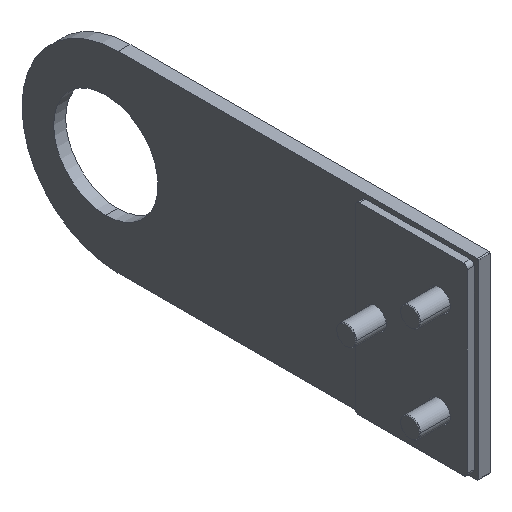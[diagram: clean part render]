
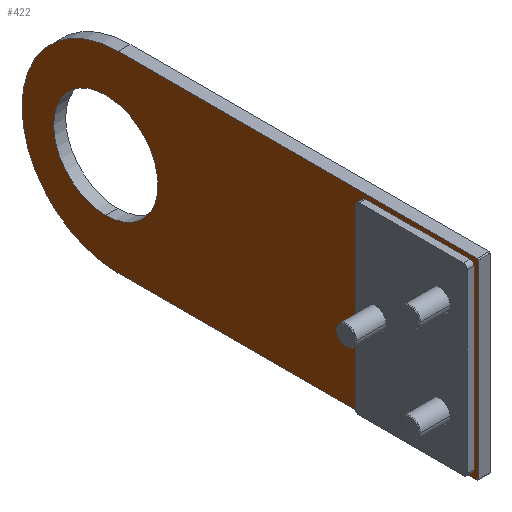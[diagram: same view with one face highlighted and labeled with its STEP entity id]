
A CAD part, isometric view. The second image highlights one B-rep face of the part: STEP entity #422.
In plain terms, the highlighted planar face has unit normal (-1, 0, 0).
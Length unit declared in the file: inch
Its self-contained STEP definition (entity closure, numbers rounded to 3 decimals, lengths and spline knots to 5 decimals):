
#100=CARTESIAN_POINT('',(-0.0005,2.2525,0.));
#101=DIRECTION('',(1.,0.,0.));
#102=DIRECTION('',(0.,0.,-1.));
#103=AXIS2_PLACEMENT_3D('',#100,#101,#102);
#105=CARTESIAN_POINT('',(-0.0005,2.2525,0.));
#106=DIRECTION('',(1.,0.,0.));
#107=DIRECTION('',(0.,0.,1.));
#108=AXIS2_PLACEMENT_3D('',#105,#106,#107);
#110=CARTESIAN_POINT('',(-0.0005,-3.0625,0.75));
#111=DIRECTION('',(1.,0.,0.));
#112=DIRECTION('',(0.,0.,1.));
#113=AXIS2_PLACEMENT_3D('',#110,#111,#112);
#115=CARTESIAN_POINT('',(-0.0005,-3.0625,0.75));
#116=DIRECTION('',(1.,0.,0.));
#117=DIRECTION('',(0.,0.,-1.));
#118=AXIS2_PLACEMENT_3D('',#115,#116,#117);
#120=CARTESIAN_POINT('',(-0.0005,-3.0625,-0.75));
#121=DIRECTION('',(1.,0.,0.));
#122=DIRECTION('',(0.,0.,1.));
#123=AXIS2_PLACEMENT_3D('',#120,#121,#122);
#125=CARTESIAN_POINT('',(-0.0005,-3.0625,-0.75));
#126=DIRECTION('',(1.,0.,0.));
#127=DIRECTION('',(0.,0.,-1.));
#128=AXIS2_PLACEMENT_3D('',#125,#126,#127);
#130=CARTESIAN_POINT('',(-0.0005,-2.0625,0.));
#131=DIRECTION('',(1.,0.,0.));
#132=DIRECTION('',(0.,0.,1.));
#133=AXIS2_PLACEMENT_3D('',#130,#131,#132);
#135=CARTESIAN_POINT('',(-0.0005,-2.0625,0.));
#136=DIRECTION('',(1.,0.,0.));
#137=DIRECTION('',(0.,0.,-1.));
#138=AXIS2_PLACEMENT_3D('',#135,#136,#137);
#140=CARTESIAN_POINT('',(-0.0005,-3.3125,0.));
#141=DIRECTION('',(1.,0.,0.));
#142=DIRECTION('',(0.,0.,1.));
#143=AXIS2_PLACEMENT_3D('',#140,#141,#142);
#145=CARTESIAN_POINT('',(-0.0005,-3.3125,0.));
#146=DIRECTION('',(1.,0.,0.));
#147=DIRECTION('',(0.,0.,-1.));
#148=AXIS2_PLACEMENT_3D('',#145,#146,#147);
#150=CARTESIAN_POINT('',(-0.0005,2.0625,0.));
#151=DIRECTION('',(1.,0.,0.));
#152=DIRECTION('',(0.,0.,-1.));
#153=AXIS2_PLACEMENT_3D('',#150,#151,#152);
#155=DIRECTION('',(0.,-1.,0.));
#156=VECTOR('',#155,5.61);
#157=CARTESIAN_POINT('',(-0.0005,2.0625,1.5));
#158=LINE('',#157,#156);
#159=CARTESIAN_POINT('',(-0.0005,-3.5475,1.485));
#160=DIRECTION('',(-1.,0.,0.));
#161=DIRECTION('',(0.,-1.,0.));
#162=AXIS2_PLACEMENT_3D('',#159,#160,#161);
#164=DIRECTION('',(0.,0.,-1.));
#165=VECTOR('',#164,2.97);
#166=CARTESIAN_POINT('',(-0.0005,-3.5625,1.485));
#167=LINE('',#166,#165);
#168=CARTESIAN_POINT('',(-0.0005,-3.5475,-1.485));
#169=DIRECTION('',(-1.,0.,0.));
#170=DIRECTION('',(0.,0.,-1.));
#171=AXIS2_PLACEMENT_3D('',#168,#169,#170);
#173=DIRECTION('',(0.,1.,0.));
#174=VECTOR('',#173,5.61);
#175=CARTESIAN_POINT('',(-0.0005,-3.5475,-1.5));
#176=LINE('',#175,#174);
#234=CARTESIAN_POINT('',(-0.0005,2.2525,-0.815));
#236=VERTEX_POINT('',#234);
#238=CARTESIAN_POINT('',(-0.0005,2.2525,0.815));
#240=VERTEX_POINT('',#238);
#257=CARTESIAN_POINT('',(-0.0005,-3.3125,0.094));
#258=CARTESIAN_POINT('',(-0.0005,-3.3125,-0.094));
#259=VERTEX_POINT('',#257);
#260=VERTEX_POINT('',#258);
#261=CARTESIAN_POINT('',(-0.0005,-2.0625,0.156));
#262=CARTESIAN_POINT('',(-0.0005,-2.0625,-0.156));
#263=VERTEX_POINT('',#261);
#264=VERTEX_POINT('',#262);
#265=CARTESIAN_POINT('',(-0.0005,-3.0625,-0.594));
#266=CARTESIAN_POINT('',(-0.0005,-3.0625,-0.906));
#267=VERTEX_POINT('',#265);
#268=VERTEX_POINT('',#266);
#269=CARTESIAN_POINT('',(-0.0005,-3.0625,0.906));
#270=CARTESIAN_POINT('',(-0.0005,-3.0625,0.594));
#271=VERTEX_POINT('',#269);
#272=VERTEX_POINT('',#270);
#277=CARTESIAN_POINT('',(-0.0005,-3.5475,-1.5));
#278=VERTEX_POINT('',#277);
#279=CARTESIAN_POINT('',(-0.0005,-3.5625,-1.485));
#280=VERTEX_POINT('',#279);
#285=CARTESIAN_POINT('',(-0.0005,-3.5625,1.485));
#286=VERTEX_POINT('',#285);
#287=CARTESIAN_POINT('',(-0.0005,-3.5475,1.5));
#288=VERTEX_POINT('',#287);
#289=CARTESIAN_POINT('',(-0.0005,2.0625,-1.5));
#290=CARTESIAN_POINT('',(-0.0005,2.0625,1.5));
#291=VERTEX_POINT('',#289);
#292=VERTEX_POINT('',#290);
#375=CARTESIAN_POINT('',(-0.0005,0.,0.));
#376=DIRECTION('',(1.,0.,0.));
#377=DIRECTION('',(0.,0.,-1.));
#378=AXIS2_PLACEMENT_3D('',#375,#376,#377);
#379=PLANE('',#378);
#381=ORIENTED_EDGE('',*,*,#380,.T.);
#383=ORIENTED_EDGE('',*,*,#382,.T.);
#385=ORIENTED_EDGE('',*,*,#384,.F.);
#387=ORIENTED_EDGE('',*,*,#386,.T.);
#389=ORIENTED_EDGE('',*,*,#388,.F.);
#391=ORIENTED_EDGE('',*,*,#390,.T.);
#392=EDGE_LOOP('',(#381,#383,#385,#387,#389,#391));
#393=FACE_OUTER_BOUND('',#392,.F.);
#395=ORIENTED_EDGE('',*,*,#394,.F.);
#397=ORIENTED_EDGE('',*,*,#396,.F.);
#398=EDGE_LOOP('',(#395,#397));
#399=FACE_BOUND('',#398,.F.);
#401=ORIENTED_EDGE('',*,*,#400,.F.);
#403=ORIENTED_EDGE('',*,*,#402,.F.);
#404=EDGE_LOOP('',(#401,#403));
#405=FACE_BOUND('',#404,.F.);
#407=ORIENTED_EDGE('',*,*,#406,.F.);
#409=ORIENTED_EDGE('',*,*,#408,.F.);
#410=EDGE_LOOP('',(#407,#409));
#411=FACE_BOUND('',#410,.F.);
#413=ORIENTED_EDGE('',*,*,#412,.F.);
#415=ORIENTED_EDGE('',*,*,#414,.F.);
#416=EDGE_LOOP('',(#413,#415));
#417=FACE_BOUND('',#416,.F.);
#418=ORIENTED_EDGE('',*,*,#354,.F.);
#419=ORIENTED_EDGE('',*,*,#370,.F.);
#420=EDGE_LOOP('',(#418,#419));
#421=FACE_BOUND('',#420,.F.);
#104=CIRCLE('',#103,0.815);
#109=CIRCLE('',#108,0.815);
#114=CIRCLE('',#113,0.156);
#119=CIRCLE('',#118,0.156);
#124=CIRCLE('',#123,0.156);
#129=CIRCLE('',#128,0.156);
#134=CIRCLE('',#133,0.156);
#139=CIRCLE('',#138,0.156);
#144=CIRCLE('',#143,0.094);
#149=CIRCLE('',#148,0.094);
#154=CIRCLE('',#153,1.5);
#163=CIRCLE('',#162,0.015);
#172=CIRCLE('',#171,0.015);
#354=EDGE_CURVE('',#236,#240,#104,.T.);
#370=EDGE_CURVE('',#240,#236,#109,.T.);
#380=EDGE_CURVE('',#291,#292,#154,.T.);
#382=EDGE_CURVE('',#292,#288,#158,.T.);
#384=EDGE_CURVE('',#286,#288,#163,.T.);
#386=EDGE_CURVE('',#286,#280,#167,.T.);
#388=EDGE_CURVE('',#278,#280,#172,.T.);
#390=EDGE_CURVE('',#278,#291,#176,.T.);
#394=EDGE_CURVE('',#271,#272,#114,.T.);
#396=EDGE_CURVE('',#272,#271,#119,.T.);
#400=EDGE_CURVE('',#267,#268,#124,.T.);
#402=EDGE_CURVE('',#268,#267,#129,.T.);
#406=EDGE_CURVE('',#263,#264,#134,.T.);
#408=EDGE_CURVE('',#264,#263,#139,.T.);
#412=EDGE_CURVE('',#259,#260,#144,.T.);
#414=EDGE_CURVE('',#260,#259,#149,.T.);
#422=ADVANCED_FACE('',(#393,#399,#405,#411,#417,#421),#379,.F.);
